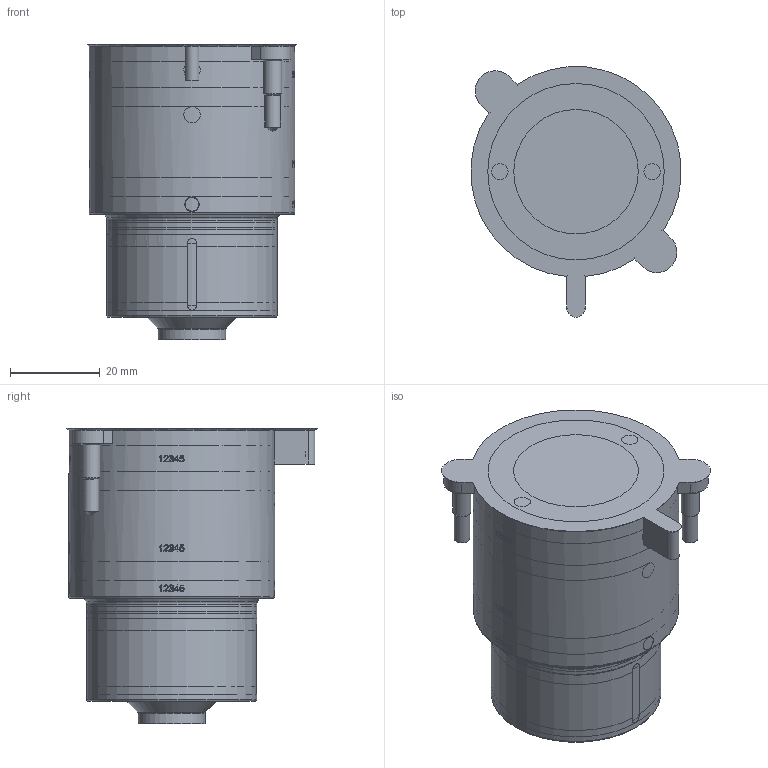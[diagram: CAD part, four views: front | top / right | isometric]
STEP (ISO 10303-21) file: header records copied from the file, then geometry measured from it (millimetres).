
FILE_DESCRIPTION(/* description */ (''),/* implementation_level */ '2;1');
FILE_NAME(/* name */ '83-006-013_CoolingInsertAssemblyTT-IT-OTX13-66.stp',/* time_stamp */ '2021-09-22T14:44:35+12:00',/* author */ (''),/* organization */ (''),/* preprocessor_version */ 'ST-DEVELOPER v16.7',/* originating_system */ 'SIEMENS PLM Software NX 12.0',/* authorisation */ '');
FILE_SCHEMA (('AP203_CONFIGURATION_CONTROLLED_3D_DESIGN_OF_MECHANICAL_PARTS_AND_ASSEMBLIES_MIM_LF { 1 0 10303 403 2 1 2}'));
Length unit declared in the file: millimetre
Products named in the file (1): Matt09681A55symg
Bounding box: 46.87 x 55.93 x 66 mm (x, y, z)
Volume: 139383.1 mm3; surface area: 37211.2 mm2
Topology: 15 solids, 15 shells, 906 faces, 2262 edges, 1485 vertices
Faces by surface type: plane 390, cylinder 325, extrusion 86, cone 55, torus 36, revolution 8, bspline 6
Full cylindrical faces by diameter (mm): 0.421 x3, 0.9 x1, 3 x5, 3.02 x5, 3.05 x6, 3.5 x2, 4 x2, 7.6 x2, 10.01 x1, 14.795 x1, 14.995 x1, 15.01 x1, 23.2 x2, 27 x1, 27.2 x2, 28.4 x2, 34.7 x2, 37.8 x1, 37.94 x2, 38 x2, 40 x3, 45.8 x3, 46 x1
Entity records: 38033 total; most frequent: CARTESIAN_POINT 17414, ORIENTED_EDGE 4078, DIRECTION 3701, EDGE_CURVE 2039, VERTEX_POINT 1429, AXIS2_PLACEMENT_3D 1337, EDGE_LOOP 1163, VECTOR 1019
